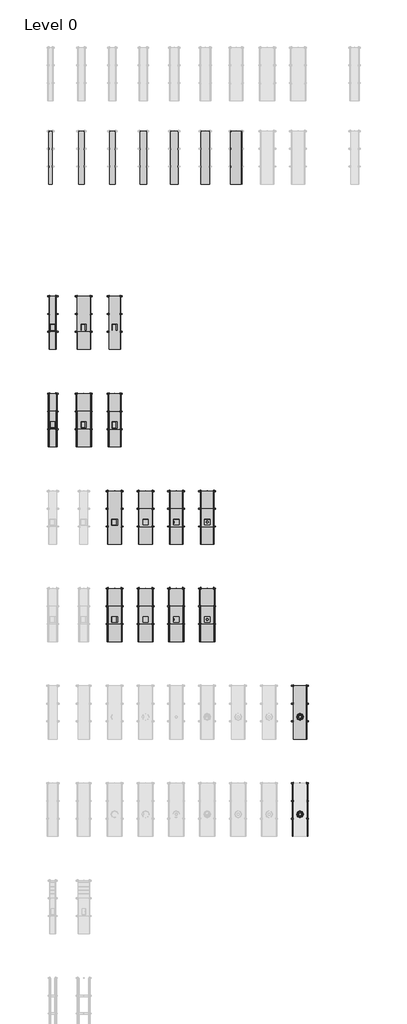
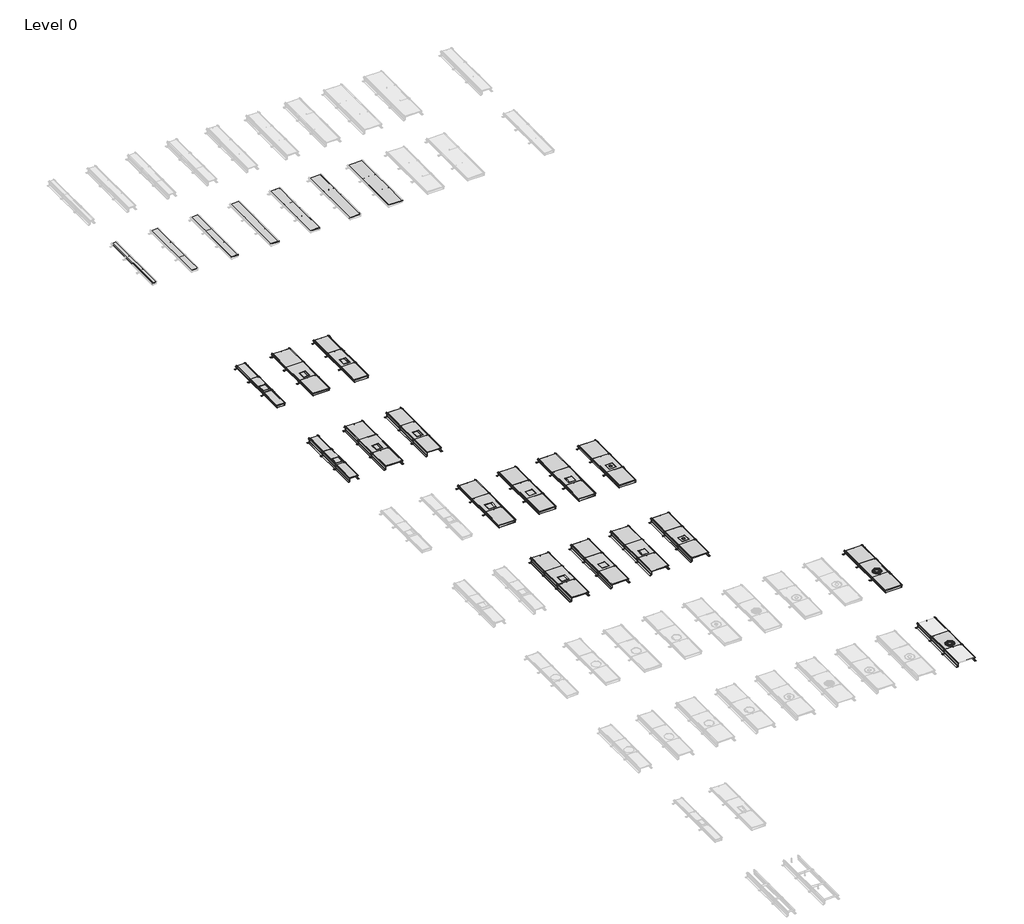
# One storey, part 3 of 4: 78 proxies, 22 cable carrier segments.
"""IFC4 building model written with IfcOpenShell, lengths in millimetres."""

from ifc_helpers import new_model, si_unit, frame, origin, place, context, project, spatial, polyline, outline, extrude, transform, mapped, element, save
from components import electrical_fixtures_5abaa08a, electrical_fixtures_b622e032, electrical_fixtures_3dcf8f7d, electrical_fixtures_91705b88, electrical_fixtures_5b61fe5b, electrical_fixtures_d483ce37, electrical_fixtures_b1f2edc7, electrical_fixtures_000b1942, electrical_fixtures_7e0d0abb, electrical_fixtures_cec88ef4, electrical_fixtures_47809ec4, electrical_fixtures_4e8a14d8, electrical_fixtures_4a2096c9, electrical_fixtures_b3832a11, electrical_fixtures_2455a1ed, electrical_fixtures_ce3c5b8d, electrical_fixtures_0b4ac500, electrical_fixtures_272c23cf, electrical_fixtures_acb858e2, electrical_fixtures_989a82f7, electrical_fixtures_84b00acf, electrical_fixtures_e54105be, electrical_fixtures_bc096a6a, electrical_fixtures_62458b07, electrical_fixtures_8427cab8, electrical_fixtures_a8bb30d2, color_iron_grey_872dce2f, color_iron_grey_09ea9520, stainless_steel_cassette_q12_bl_outer_height_28mm_38aa1d54, stainless_steel_cassette_q12_le_outer_height_28mm_4387def9, stainless_steel_cassette_q12_tm_outer_height_28mm_6e70061e

model = new_model("IFC4")

# Units and contexts
model_context = context("Model", 3, world=origin())
ifc_project = project(units=[si_unit("LENGTHUNIT", "METRE", prefix="MILLI")], contexts=[model_context])

# Site, building, storey
site = spatial("IfcSite", under=ifc_project)
building = spatial("IfcBuilding", under=site)
storey = spatial("IfcBuildingStorey", under=building, Name="Level 0", Elevation=0.0)

# Proxies
placement = place(None, origin())
electrical_fixtures_shape = electrical_fixtures_5abaa08a(model_context)
element("IfcBuildingElementProxy", 1, Name="Electrical_Installation_Hager_Cover-Q12-BKA : Electrical_Installation_Hager_Cover-Q12-BKA", ObjectType="Electrical_Installation_Hager_Cover-Q12-BKA : Electrical_Installation_Hager_Cover-Q12-BKA", at=placement, inside=storey, context=model_context, shape_type="MappedRepresentation", body=[
    mapped(electrical_fixtures_shape, transform((-15999.1749622, -1696.4762943, 0.0), x_axis=(0.0, 1.0000000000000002, 0.0), y_axis=(-1.0000000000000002, 0.0, 0.0), z_axis=(0.0, 0.0, 1.0))),
])
element("IfcBuildingElementProxy", 2, Name="Electrical_Installation_Hager_Cover-Q12-BKA : Electrical_Installation_Hager_Cover-Q12-BKA", ObjectType="Electrical_Installation_Hager_Cover-Q12-BKA : Electrical_Installation_Hager_Cover-Q12-BKA", at=placement, inside=storey, context=model_context, shape_type="MappedRepresentation", body=[
    mapped(electrical_fixtures_shape, transform((-14599.1749622, -1696.4762943, 0.0), x_axis=(0.0, 1.0000000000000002, 0.0), y_axis=(-1.0000000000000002, 0.0, 0.0), z_axis=(0.0, 0.0, 1.0))),
])
element("IfcBuildingElementProxy", 3, Name="Electrical_Installation_Hager_Cover-Q12-BKA : Electrical_Installation_Hager_Cover-Q12-BKA", ObjectType="Electrical_Installation_Hager_Cover-Q12-BKA : Electrical_Installation_Hager_Cover-Q12-BKA", at=placement, inside=storey, context=model_context, shape_type="MappedRepresentation", body=[
    mapped(electrical_fixtures_shape, transform((-13212.1749622, -1696.4762943, 0.0), x_axis=(0.0, 1.0000000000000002, 0.0), y_axis=(-1.0000000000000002, 0.0, 0.0), z_axis=(0.0, 0.0, 1.0))),
])
element("IfcBuildingElementProxy", 4, Name="Electrical_Installation_Hager_Cover-Q12-BKA : Electrical_Installation_Hager_Cover-Q12-BKA", ObjectType="Electrical_Installation_Hager_Cover-Q12-BKA : Electrical_Installation_Hager_Cover-Q12-BKA", at=placement, inside=storey, context=model_context, shape_type="MappedRepresentation", body=[
    mapped(electrical_fixtures_shape, transform((-11812.1749622, -1696.4762943, 0.0), x_axis=(0.0, 1.0000000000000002, 0.0), y_axis=(-1.0000000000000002, 0.0, 0.0), z_axis=(0.0, 0.0, 1.0))),
])
element("IfcBuildingElementProxy", 5, Name="Electrical_Installation_Hager_Cover-Q12-BKA : Electrical_Installation_Hager_Cover-Q12-BKA", ObjectType="Electrical_Installation_Hager_Cover-Q12-BKA : Electrical_Installation_Hager_Cover-Q12-BKA", at=placement, inside=storey, context=model_context, shape_type="MappedRepresentation", body=[
    mapped(electrical_fixtures_shape, transform((-15999.1749622, -6096.4169363, 0.0), x_axis=(0.0, 1.0, 0.0), y_axis=(-1.0, 0.0, 0.0), z_axis=(0.0, 0.0, 1.0))),
])
element("IfcBuildingElementProxy", 6, Name="Electrical_Installation_Hager_Cover-Q12-BKA : Electrical_Installation_Hager_Cover-Q12-BKA", ObjectType="Electrical_Installation_Hager_Cover-Q12-BKA : Electrical_Installation_Hager_Cover-Q12-BKA", at=placement, inside=storey, context=model_context, shape_type="MappedRepresentation", body=[
    mapped(electrical_fixtures_shape, transform((-14599.1749622, -6096.4169363, 0.0), x_axis=(0.0, 1.0, 0.0), y_axis=(-1.0, 0.0, 0.0), z_axis=(0.0, 0.0, 1.0))),
])
element("IfcBuildingElementProxy", 7, Name="Electrical_Installation_Hager_Cover-Q12-BKA : Electrical_Installation_Hager_Cover-Q12-BKA", ObjectType="Electrical_Installation_Hager_Cover-Q12-BKA : Electrical_Installation_Hager_Cover-Q12-BKA", at=placement, inside=storey, context=model_context, shape_type="MappedRepresentation", body=[
    mapped(electrical_fixtures_shape, transform((-13212.1749622, -6096.4169363, 0.0), x_axis=(0.0, 1.0, 0.0), y_axis=(-1.0, 0.0, 0.0), z_axis=(0.0, 0.0, 1.0))),
])
element("IfcBuildingElementProxy", 8, Name="Electrical_Installation_Hager_Cover-Q12-BKA : Electrical_Installation_Hager_Cover-Q12-BKA", ObjectType="Electrical_Installation_Hager_Cover-Q12-BKA : Electrical_Installation_Hager_Cover-Q12-BKA", at=placement, inside=storey, context=model_context, shape_type="MappedRepresentation", body=[
    mapped(electrical_fixtures_shape, transform((-11812.1749622, -6096.4169363, 0.0), x_axis=(0.0, 1.0, 0.0), y_axis=(-1.0, 0.0, 0.0), z_axis=(0.0, 0.0, 1.0))),
])
electrical_fixtures_2_shape = electrical_fixtures_b622e032(model_context)
element("IfcBuildingElementProxy", 9, Name="Electrical_Installation_Hager_Cover-R12-BKAD : Electrical_Installation_Hager_Cover-R12-BKAD", ObjectType="Electrical_Installation_Hager_Cover-R12-BKAD : Electrical_Installation_Hager_Cover-R12-BKAD", at=placement, inside=storey, context=model_context, shape_type="MappedRepresentation", body=[
    mapped(electrical_fixtures_2_shape, transform((-7612.1749622, -10496.4911142, 0.0), x_axis=(0.0, 1.0, 0.0), y_axis=(-1.0, 0.0, 0.0), z_axis=(0.0, 0.0, 1.0))),
])
element("IfcBuildingElementProxy", 10, Name="Electrical_Installation_Hager_Cover-R12-BKAD : Electrical_Installation_Hager_Cover-R12-BKAD", ObjectType="Electrical_Installation_Hager_Cover-R12-BKAD : Electrical_Installation_Hager_Cover-R12-BKAD", at=placement, inside=storey, context=model_context, shape_type="MappedRepresentation", body=[
    mapped(electrical_fixtures_2_shape, transform((-7612.1749622, -14896.5591011, 0.0), x_axis=(0.0, 1.0, 0.0), y_axis=(-1.0, 0.0, 0.0), z_axis=(0.0, 0.0, 1.0))),
])
electrical_fixtures_3_shape = electrical_fixtures_3dcf8f7d(model_context)
electrical_fixtures_4_shape = electrical_fixtures_91705b88(model_context)
element("IfcBuildingElementProxy", 11, Name="Electrical_Installation_Hager_BKFD-Trunking-System-With-Flexible-Screed-Casing-And-Sealing-Option : Nominal Size 600  Length 2.4 m", ObjectType="Electrical_Installation_Hager_BKFD-Trunking-System-With-Flexible-Screed-Casing-And-Sealing-Option : Nominal Size 600  Length 2.4 m", at=placement, inside=storey, context=model_context, shape_type="MappedRepresentation", body=[
    mapped(electrical_fixtures_3_shape, transform((-7612.1749622, -13296.5591011, 0.0), x_axis=(0.0, -1.0, 0.0), y_axis=(1.0, 0.0, 0.0), z_axis=(0.0, 0.0, 1.0))),
    mapped(electrical_fixtures_4_shape, transform((-7612.1749622, -13296.5591011, 0.0), x_axis=(0.0, -1.0, 0.0), y_axis=(1.0, 0.0, 0.0), z_axis=(0.0, 0.0, 1.0))),
])
electrical_fixtures_5_shape = electrical_fixtures_5b61fe5b(model_context)
element("IfcBuildingElementProxy", 12, Name="Electrical_Installation_Hager_Blank-Cover-BKA : Electrical_Installation_Hager_Blank-Cover-BKA", ObjectType="Electrical_Installation_Hager_Blank-Cover-BKA : Electrical_Installation_Hager_Blank-Cover-BKA", at=placement, inside=storey, context=model_context, shape_type="MappedRepresentation", body=[
    mapped(electrical_fixtures_5_shape, transform((-18799.1749622, 8703.2885117, 0.0), x_axis=(0.0, -1.0, 0.0), y_axis=(1.0, 0.0, 0.0), z_axis=(0.0, 0.0, 1.0))),
])
element("IfcBuildingElementProxy", 13, Name="Electrical_Installation_Hager_Blank-Cover-BKA : Electrical_Installation_Hager_Blank-Cover-BKA", ObjectType="Electrical_Installation_Hager_Blank-Cover-BKA : Electrical_Installation_Hager_Blank-Cover-BKA", at=placement, inside=storey, context=model_context, shape_type="MappedRepresentation", body=[
    mapped(electrical_fixtures_5_shape, transform((-18799.1749622, 6303.2885117, 0.0), x_axis=(0.0, 1.0, 0.0), y_axis=(-1.0, 0.0, 0.0), z_axis=(0.0, 0.0, 1.0))),
])
element("IfcBuildingElementProxy", 14, Name="Electrical_Installation_Hager_Blank-Cover-BKA : Electrical_Installation_Hager_Blank-Cover-BKA", ObjectType="Electrical_Installation_Hager_Blank-Cover-BKA : Electrical_Installation_Hager_Blank-Cover-BKA", at=placement, inside=storey, context=model_context, shape_type="MappedRepresentation", body=[
    mapped(electrical_fixtures_5_shape, transform((-18799.1749622, 4303.2885117, 0.0), x_axis=(0.0, -1.0, 0.0), y_axis=(1.0, 0.0, 0.0), z_axis=(0.0, 0.0, 1.0))),
])
element("IfcBuildingElementProxy", 15, Name="Electrical_Installation_Hager_Blank-Cover-BKA : Electrical_Installation_Hager_Blank-Cover-BKA", ObjectType="Electrical_Installation_Hager_Blank-Cover-BKA : Electrical_Installation_Hager_Blank-Cover-BKA", at=placement, inside=storey, context=model_context, shape_type="MappedRepresentation", body=[
    mapped(electrical_fixtures_5_shape, transform((-18799.1749622, 1903.2885117, 0.0), x_axis=(0.0, 1.0, 0.0), y_axis=(-1.0, 0.0, 0.0), z_axis=(0.0, 0.0, 1.0))),
])
electrical_fixtures_6_shape = electrical_fixtures_d483ce37(model_context)
element("IfcBuildingElementProxy", 16, Name="Electrical_Installation_Hager_Blank-Cover-BKA : Electrical_Installation_Hager_Blank-Cover-BKA", ObjectType="Electrical_Installation_Hager_Blank-Cover-BKA : Electrical_Installation_Hager_Blank-Cover-BKA", at=placement, inside=storey, context=model_context, shape_type="MappedRepresentation", body=[
    mapped(electrical_fixtures_6_shape, transform((-17399.1749622, 8703.2885117, 0.0), x_axis=(0.0, -1.0, 0.0), y_axis=(1.0, 0.0, 0.0), z_axis=(0.0, 0.0, 1.0))),
])
element("IfcBuildingElementProxy", 17, Name="Electrical_Installation_Hager_Blank-Cover-BKA : Electrical_Installation_Hager_Blank-Cover-BKA", ObjectType="Electrical_Installation_Hager_Blank-Cover-BKA : Electrical_Installation_Hager_Blank-Cover-BKA", at=placement, inside=storey, context=model_context, shape_type="MappedRepresentation", body=[
    mapped(electrical_fixtures_6_shape, transform((-17399.1749622, 6303.2885117, 0.0), x_axis=(0.0, 1.0, 0.0), y_axis=(-1.0, 0.0, 0.0), z_axis=(0.0, 0.0, 1.0))),
])
element("IfcBuildingElementProxy", 18, Name="Electrical_Installation_Hager_Blank-Cover-BKA : Electrical_Installation_Hager_Blank-Cover-BKA", ObjectType="Electrical_Installation_Hager_Blank-Cover-BKA : Electrical_Installation_Hager_Blank-Cover-BKA", at=placement, inside=storey, context=model_context, shape_type="MappedRepresentation", body=[
    mapped(electrical_fixtures_6_shape, transform((-17399.1749622, 4303.2885117, 0.0), x_axis=(0.0, -1.0, 0.0), y_axis=(1.0, 0.0, 0.0), z_axis=(0.0, 0.0, 1.0))),
])
element("IfcBuildingElementProxy", 19, Name="Electrical_Installation_Hager_Blank-Cover-BKA : Electrical_Installation_Hager_Blank-Cover-BKA", ObjectType="Electrical_Installation_Hager_Blank-Cover-BKA : Electrical_Installation_Hager_Blank-Cover-BKA", at=placement, inside=storey, context=model_context, shape_type="MappedRepresentation", body=[
    mapped(electrical_fixtures_6_shape, transform((-17399.1749622, 1903.2885117, 0.0), x_axis=(0.0, 1.0, 0.0), y_axis=(-1.0, 0.0, 0.0), z_axis=(0.0, 0.0, 1.0))),
])
element("IfcBuildingElementProxy", 20, Name="Electrical_Installation_Hager_Blank-Cover-BKA : Electrical_Installation_Hager_Blank-Cover-BKA", ObjectType="Electrical_Installation_Hager_Blank-Cover-BKA : Electrical_Installation_Hager_Blank-Cover-BKA", at=placement, inside=storey, context=model_context, shape_type="MappedRepresentation", body=[
    mapped(electrical_fixtures_6_shape, transform((-15999.1749622, -1696.4762943, 0.0), x_axis=(0.0, -1.0, 0.0), y_axis=(1.0, 0.0, 0.0), z_axis=(0.0, 0.0, 1.0))),
])
element("IfcBuildingElementProxy", 21, Name="Electrical_Installation_Hager_Blank-Cover-BKA : Electrical_Installation_Hager_Blank-Cover-BKA", ObjectType="Electrical_Installation_Hager_Blank-Cover-BKA : Electrical_Installation_Hager_Blank-Cover-BKA", at=placement, inside=storey, context=model_context, shape_type="MappedRepresentation", body=[
    mapped(electrical_fixtures_6_shape, transform((-15999.1749622, -896.4762943, 0.0), x_axis=(0.0, 1.0, 0.0), y_axis=(-1.0, 0.0, 0.0), z_axis=(0.0, 0.0, 1.0))),
])
element("IfcBuildingElementProxy", 22, Name="Electrical_Installation_Hager_Blank-Cover-BKA : Electrical_Installation_Hager_Blank-Cover-BKA", ObjectType="Electrical_Installation_Hager_Blank-Cover-BKA : Electrical_Installation_Hager_Blank-Cover-BKA", at=placement, inside=storey, context=model_context, shape_type="MappedRepresentation", body=[
    mapped(electrical_fixtures_6_shape, transform((-14599.1749622, -1696.4762943, 0.0), x_axis=(0.0, -1.0, 0.0), y_axis=(1.0, 0.0, 0.0), z_axis=(0.0, 0.0, 1.0))),
])
element("IfcBuildingElementProxy", 23, Name="Electrical_Installation_Hager_Blank-Cover-BKA : Electrical_Installation_Hager_Blank-Cover-BKA", ObjectType="Electrical_Installation_Hager_Blank-Cover-BKA : Electrical_Installation_Hager_Blank-Cover-BKA", at=placement, inside=storey, context=model_context, shape_type="MappedRepresentation", body=[
    mapped(electrical_fixtures_6_shape, transform((-14599.1749622, -896.4762943, 0.0), x_axis=(0.0, 1.0, 0.0), y_axis=(-1.0, 0.0, 0.0), z_axis=(0.0, 0.0, 1.0))),
])
element("IfcBuildingElementProxy", 24, Name="Electrical_Installation_Hager_Blank-Cover-BKA : Electrical_Installation_Hager_Blank-Cover-BKA", ObjectType="Electrical_Installation_Hager_Blank-Cover-BKA : Electrical_Installation_Hager_Blank-Cover-BKA", at=placement, inside=storey, context=model_context, shape_type="MappedRepresentation", body=[
    mapped(electrical_fixtures_6_shape, transform((-13212.1749622, -1696.4762943, 0.0), x_axis=(0.0, -1.0, 0.0), y_axis=(1.0, 0.0, 0.0), z_axis=(0.0, 0.0, 1.0))),
])
element("IfcBuildingElementProxy", 25, Name="Electrical_Installation_Hager_Blank-Cover-BKA : Electrical_Installation_Hager_Blank-Cover-BKA", ObjectType="Electrical_Installation_Hager_Blank-Cover-BKA : Electrical_Installation_Hager_Blank-Cover-BKA", at=placement, inside=storey, context=model_context, shape_type="MappedRepresentation", body=[
    mapped(electrical_fixtures_6_shape, transform((-13212.1749622, -896.4762943, 0.0), x_axis=(0.0, 1.0, 0.0), y_axis=(-1.0, 0.0, 0.0), z_axis=(0.0, 0.0, 1.0))),
])
element("IfcBuildingElementProxy", 26, Name="Electrical_Installation_Hager_Blank-Cover-BKA : Electrical_Installation_Hager_Blank-Cover-BKA", ObjectType="Electrical_Installation_Hager_Blank-Cover-BKA : Electrical_Installation_Hager_Blank-Cover-BKA", at=placement, inside=storey, context=model_context, shape_type="MappedRepresentation", body=[
    mapped(electrical_fixtures_6_shape, transform((-11812.1749622, -1696.4762943, 0.0), x_axis=(0.0, -1.0, 0.0), y_axis=(1.0, 0.0, 0.0), z_axis=(0.0, 0.0, 1.0))),
])
element("IfcBuildingElementProxy", 27, Name="Electrical_Installation_Hager_Blank-Cover-BKA : Electrical_Installation_Hager_Blank-Cover-BKA", ObjectType="Electrical_Installation_Hager_Blank-Cover-BKA : Electrical_Installation_Hager_Blank-Cover-BKA", at=placement, inside=storey, context=model_context, shape_type="MappedRepresentation", body=[
    mapped(electrical_fixtures_6_shape, transform((-11812.1749622, -896.4762943, 0.0), x_axis=(0.0, 1.0, 0.0), y_axis=(-1.0, 0.0, 0.0), z_axis=(0.0, 0.0, 1.0))),
])
element("IfcBuildingElementProxy", 28, Name="Electrical_Installation_Hager_Blank-Cover-BKA : Electrical_Installation_Hager_Blank-Cover-BKA", ObjectType="Electrical_Installation_Hager_Blank-Cover-BKA : Electrical_Installation_Hager_Blank-Cover-BKA", at=placement, inside=storey, context=model_context, shape_type="MappedRepresentation", body=[
    mapped(electrical_fixtures_6_shape, transform((-15999.1749622, -6096.4169363, 0.0), x_axis=(0.0, -1.0, 0.0), y_axis=(1.0, 0.0, 0.0), z_axis=(0.0, 0.0, 1.0))),
])
element("IfcBuildingElementProxy", 29, Name="Electrical_Installation_Hager_Blank-Cover-BKA : Electrical_Installation_Hager_Blank-Cover-BKA", ObjectType="Electrical_Installation_Hager_Blank-Cover-BKA : Electrical_Installation_Hager_Blank-Cover-BKA", at=placement, inside=storey, context=model_context, shape_type="MappedRepresentation", body=[
    mapped(electrical_fixtures_6_shape, transform((-15999.1749622, -5296.4169363, 0.0), x_axis=(0.0, 1.0, 0.0), y_axis=(-1.0, 0.0, 0.0), z_axis=(0.0, 0.0, 1.0))),
])
element("IfcBuildingElementProxy", 30, Name="Electrical_Installation_Hager_Blank-Cover-BKA : Electrical_Installation_Hager_Blank-Cover-BKA", ObjectType="Electrical_Installation_Hager_Blank-Cover-BKA : Electrical_Installation_Hager_Blank-Cover-BKA", at=placement, inside=storey, context=model_context, shape_type="MappedRepresentation", body=[
    mapped(electrical_fixtures_6_shape, transform((-14599.1749622, -6096.4169363, 0.0), x_axis=(0.0, -1.0, 0.0), y_axis=(1.0, 0.0, 0.0), z_axis=(0.0, 0.0, 1.0))),
])
element("IfcBuildingElementProxy", 31, Name="Electrical_Installation_Hager_Blank-Cover-BKA : Electrical_Installation_Hager_Blank-Cover-BKA", ObjectType="Electrical_Installation_Hager_Blank-Cover-BKA : Electrical_Installation_Hager_Blank-Cover-BKA", at=placement, inside=storey, context=model_context, shape_type="MappedRepresentation", body=[
    mapped(electrical_fixtures_6_shape, transform((-14599.1749622, -5296.4169363, 0.0), x_axis=(0.0, 1.0, 0.0), y_axis=(-1.0, 0.0, 0.0), z_axis=(0.0, 0.0, 1.0))),
])
element("IfcBuildingElementProxy", 32, Name="Electrical_Installation_Hager_Blank-Cover-BKA : Electrical_Installation_Hager_Blank-Cover-BKA", ObjectType="Electrical_Installation_Hager_Blank-Cover-BKA : Electrical_Installation_Hager_Blank-Cover-BKA", at=placement, inside=storey, context=model_context, shape_type="MappedRepresentation", body=[
    mapped(electrical_fixtures_6_shape, transform((-13212.1749622, -6096.4169363, 0.0), x_axis=(0.0, -1.0, 0.0), y_axis=(1.0, 0.0, 0.0), z_axis=(0.0, 0.0, 1.0))),
])
element("IfcBuildingElementProxy", 33, Name="Electrical_Installation_Hager_Blank-Cover-BKA : Electrical_Installation_Hager_Blank-Cover-BKA", ObjectType="Electrical_Installation_Hager_Blank-Cover-BKA : Electrical_Installation_Hager_Blank-Cover-BKA", at=placement, inside=storey, context=model_context, shape_type="MappedRepresentation", body=[
    mapped(electrical_fixtures_6_shape, transform((-13212.1749622, -5296.4169363, 0.0), x_axis=(0.0, 1.0, 0.0), y_axis=(-1.0, 0.0, 0.0), z_axis=(0.0, 0.0, 1.0))),
])
element("IfcBuildingElementProxy", 34, Name="Electrical_Installation_Hager_Blank-Cover-BKA : Electrical_Installation_Hager_Blank-Cover-BKA", ObjectType="Electrical_Installation_Hager_Blank-Cover-BKA : Electrical_Installation_Hager_Blank-Cover-BKA", at=placement, inside=storey, context=model_context, shape_type="MappedRepresentation", body=[
    mapped(electrical_fixtures_6_shape, transform((-11812.1749622, -6096.4169363, 0.0), x_axis=(0.0, -1.0, 0.0), y_axis=(1.0, 0.0, 0.0), z_axis=(0.0, 0.0, 1.0))),
])
element("IfcBuildingElementProxy", 35, Name="Electrical_Installation_Hager_Blank-Cover-BKA : Electrical_Installation_Hager_Blank-Cover-BKA", ObjectType="Electrical_Installation_Hager_Blank-Cover-BKA : Electrical_Installation_Hager_Blank-Cover-BKA", at=placement, inside=storey, context=model_context, shape_type="MappedRepresentation", body=[
    mapped(electrical_fixtures_6_shape, transform((-11812.1749622, -5296.4169363, 0.0), x_axis=(0.0, 1.0, 0.0), y_axis=(-1.0, 0.0, 0.0), z_axis=(0.0, 0.0, 1.0))),
])
electrical_fixtures_7_shape = electrical_fixtures_b1f2edc7(model_context)
element("IfcBuildingElementProxy", 36, Name="Electrical_Installation_Hager_Blank-Cover-BKA : Electrical_Installation_Hager_Blank-Cover-BKA", ObjectType="Electrical_Installation_Hager_Blank-Cover-BKA : Electrical_Installation_Hager_Blank-Cover-BKA", at=placement, inside=storey, context=model_context, shape_type="MappedRepresentation", body=[
    mapped(electrical_fixtures_7_shape, transform((-15999.1749622, 2699.3337677, 0.0), x_axis=(0.0, -1.0, 0.0), y_axis=(1.0, 0.0, 0.0), z_axis=(0.0, 0.0, 1.0))),
])
electrical_fixtures_8_shape = electrical_fixtures_000b1942(model_context)
element("IfcBuildingElementProxy", 37, Name="Electrical_Installation_Hager_Blank-Cover-BKA : Electrical_Installation_Hager_Blank-Cover-BKA", ObjectType="Electrical_Installation_Hager_Blank-Cover-BKA : Electrical_Installation_Hager_Blank-Cover-BKA", at=placement, inside=storey, context=model_context, shape_type="MappedRepresentation", body=[
    mapped(electrical_fixtures_8_shape, transform((-15999.1749622, 3490.2885117, 0.0), x_axis=(0.0, 1.0, 0.0), y_axis=(-1.0, 0.0, 0.0), z_axis=(0.0, 0.0, 1.0))),
])
electrical_fixtures_9_shape = electrical_fixtures_7e0d0abb(model_context)
element("IfcBuildingElementProxy", 38, Name="Electrical_Installation_Hager_Blank-Cover-BKA : Electrical_Installation_Hager_Blank-Cover-BKA", ObjectType="Electrical_Installation_Hager_Blank-Cover-BKA : Electrical_Installation_Hager_Blank-Cover-BKA", at=placement, inside=storey, context=model_context, shape_type="MappedRepresentation", body=[
    mapped(electrical_fixtures_9_shape, transform((-15999.1749622, 7903.2885117, 0.0), x_axis=(0.0, 1.0, 0.0), y_axis=(-1.0, 0.0, 0.0), z_axis=(0.0, 0.0, 1.0))),
])
element("IfcBuildingElementProxy", 39, Name="Electrical_Installation_Hager_Blank-Cover-BKA : Electrical_Installation_Hager_Blank-Cover-BKA", ObjectType="Electrical_Installation_Hager_Blank-Cover-BKA : Electrical_Installation_Hager_Blank-Cover-BKA", at=placement, inside=storey, context=model_context, shape_type="MappedRepresentation", body=[
    mapped(electrical_fixtures_9_shape, transform((-15999.1749622, 7103.2885117, 0.0), x_axis=(0.0, -1.0, 0.0), y_axis=(1.0, 0.0, 0.0), z_axis=(0.0, 0.0, 1.0))),
])
electrical_fixtures_10_shape = electrical_fixtures_cec88ef4(model_context)
element("IfcBuildingElementProxy", 40, Name="Electrical_Installation_Hager_Blank-Cover-BKAD : Electrical_Installation_Hager_Blank-Cover-BKAD", ObjectType="Electrical_Installation_Hager_Blank-Cover-BKAD : Electrical_Installation_Hager_Blank-Cover-BKAD", at=placement, inside=storey, context=model_context, shape_type="MappedRepresentation", body=[
    mapped(electrical_fixtures_10_shape, transform((-7612.1749622, -10496.4911142, 0.0), x_axis=(0.0, -1.0, 0.0), y_axis=(1.0, 0.0, 0.0), z_axis=(0.0, 0.0, 1.0))),
])
element("IfcBuildingElementProxy", 41, Name="Electrical_Installation_Hager_Blank-Cover-BKAD : Electrical_Installation_Hager_Blank-Cover-BKAD", ObjectType="Electrical_Installation_Hager_Blank-Cover-BKAD : Electrical_Installation_Hager_Blank-Cover-BKAD", at=placement, inside=storey, context=model_context, shape_type="MappedRepresentation", body=[
    mapped(electrical_fixtures_10_shape, transform((-7612.1749622, -9696.4911142, 0.0), x_axis=(0.0, 1.0, 0.0), y_axis=(-1.0, 0.0, 0.0), z_axis=(0.0, 0.0, 1.0))),
])
electrical_fixtures_11_shape = electrical_fixtures_47809ec4(model_context)
element("IfcBuildingElementProxy", 42, Name="Electrical_Installation_Hager_Cover-E09-BKA : Electrical_Installation_Hager_Cover-E09-BKA", ObjectType="Electrical_Installation_Hager_Cover-E09-BKA : Electrical_Installation_Hager_Cover-E09-BKA", at=placement, inside=storey, context=model_context, shape_type="MappedRepresentation", body=[
    mapped(electrical_fixtures_11_shape, transform((-17399.1749622, 7103.2885117, 0.0), x_axis=(0.0, 1.0, 0.0), y_axis=(-1.0, 0.0, 0.0), z_axis=(0.0, 0.0, 1.0))),
])
element("IfcBuildingElementProxy", 43, Name="Electrical_Installation_Hager_Cover-E09-BKA : Electrical_Installation_Hager_Cover-E09-BKA", ObjectType="Electrical_Installation_Hager_Cover-E09-BKA : Electrical_Installation_Hager_Cover-E09-BKA", at=placement, inside=storey, context=model_context, shape_type="MappedRepresentation", body=[
    mapped(electrical_fixtures_11_shape, transform((-17399.1749622, 2703.2885117, 0.0), x_axis=(0.0, 1.0, 0.0), y_axis=(-1.0, 0.0, 0.0), z_axis=(0.0, 0.0, 1.0))),
])
electrical_fixtures_12_shape = electrical_fixtures_4e8a14d8(model_context)
element("IfcBuildingElementProxy", 44, Name="Electrical_Installation_Hager_Cover-E09-BKA : Electrical_Installation_Hager_Cover-E09-BKA", ObjectType="Electrical_Installation_Hager_Cover-E09-BKA : Electrical_Installation_Hager_Cover-E09-BKA", at=placement, inside=storey, context=model_context, shape_type="MappedRepresentation", body=[
    mapped(electrical_fixtures_12_shape, transform((-15999.1749622, 7103.2885117, 0.0), x_axis=(0.0, 1.0000000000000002, 0.0), y_axis=(-1.0000000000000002, 0.0, 0.0), z_axis=(0.0, 0.0, 1.0))),
])
element("IfcBuildingElementProxy", 45, Name="Electrical_Installation_Hager_Cover-E09-BKA : Electrical_Installation_Hager_Cover-E09-BKA", ObjectType="Electrical_Installation_Hager_Cover-E09-BKA : Electrical_Installation_Hager_Cover-E09-BKA", at=placement, inside=storey, context=model_context, shape_type="MappedRepresentation", body=[
    mapped(electrical_fixtures_12_shape, transform((-15999.1749622, 2699.3337677, 0.0), x_axis=(0.0, 1.0000000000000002, 0.0), y_axis=(-1.0000000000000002, 0.0, 0.0), z_axis=(0.0, 0.0, 1.0))),
])
electrical_fixtures_13_shape = electrical_fixtures_4a2096c9(model_context)
electrical_fixtures_14_shape = electrical_fixtures_b3832a11(model_context)
element("IfcBuildingElementProxy", 46, Name="Electrical_Installation_Hager_BKWD-Trunking-System-With-Trunking-Bottom-And-Sealing-Option : Nominal Size 600  Length 2.4 m", ObjectType="Electrical_Installation_Hager_BKWD-Trunking-System-With-Trunking-Bottom-And-Sealing-Option : Nominal Size 600  Length 2.4 m", at=placement, inside=storey, context=model_context, shape_type="MappedRepresentation", body=[
    mapped(electrical_fixtures_13_shape, transform((-7612.1749622, -8896.4911142, 0.0), x_axis=(0.0, -1.0, 0.0), y_axis=(1.0, 0.0, 0.0), z_axis=(0.0, 0.0, 1.0))),
    mapped(electrical_fixtures_14_shape, transform((-7612.1749622, -8896.4911142, 0.0), x_axis=(0.0, -1.0, 0.0), y_axis=(1.0, 0.0, 0.0), z_axis=(0.0, 0.0, 1.0))),
])
electrical_fixtures_15_shape = electrical_fixtures_2455a1ed(model_context)
electrical_fixtures_16_shape = electrical_fixtures_ce3c5b8d(model_context)
element("IfcBuildingElementProxy", 47, Name="Electrical_Installation_Hager_BKW-Trunking-System-With-Trunking-Bottom-For-Dry-Cleaned-Floors : Nominal Size 500  Length 2.4 m", ObjectType="Electrical_Installation_Hager_BKW-Trunking-System-With-Trunking-Bottom-For-Dry-Cleaned-Floors : Nominal Size 500  Length 2.4 m", at=placement, inside=storey, context=model_context, shape_type="MappedRepresentation", body=[
    mapped(electrical_fixtures_15_shape, transform((-15999.1749622, 8703.2885117, 0.0), x_axis=(0.0, -1.0, 0.0), y_axis=(1.0, 0.0, 0.0), z_axis=(0.0, 0.0, 1.0))),
    mapped(electrical_fixtures_16_shape, transform((-15999.1749622, 8703.2885117, 0.0), x_axis=(0.0, -1.0, 0.0), y_axis=(1.0, 0.0, 0.0), z_axis=(0.0, 0.0, 1.0))),
])
element("IfcBuildingElementProxy", 48, Name="Electrical_Installation_Hager_BKW-Trunking-System-With-Trunking-Bottom-For-Dry-Cleaned-Floors : Nominal Size 600  Length 2.4 m", ObjectType="Electrical_Installation_Hager_BKW-Trunking-System-With-Trunking-Bottom-For-Dry-Cleaned-Floors : Nominal Size 600  Length 2.4 m", at=placement, inside=storey, context=model_context, shape_type="MappedRepresentation", body=[
    mapped(electrical_fixtures_13_shape, transform((-17399.1749622, 8703.2885117, 0.0), x_axis=(0.0, -1.0, 0.0), y_axis=(1.0, 0.0, 0.0), z_axis=(0.0, 0.0, 1.0))),
    mapped(electrical_fixtures_14_shape, transform((-17399.1749622, 8703.2885117, 0.0), x_axis=(0.0, -1.0, 0.0), y_axis=(1.0, 0.0, 0.0), z_axis=(0.0, 0.0, 1.0))),
])
element("IfcBuildingElementProxy", 49, Name="Electrical_Installation_Hager_BKW-Trunking-System-With-Trunking-Bottom-For-Dry-Cleaned-Floors : Nominal Size 600  Length 2.4 m", ObjectType="Electrical_Installation_Hager_BKW-Trunking-System-With-Trunking-Bottom-For-Dry-Cleaned-Floors : Nominal Size 600  Length 2.4 m", at=placement, inside=storey, context=model_context, shape_type="MappedRepresentation", body=[
    mapped(electrical_fixtures_13_shape, transform((-15999.1749622, -96.4762943, 0.0), x_axis=(0.0, -1.0, 0.0), y_axis=(1.0, 0.0, 0.0), z_axis=(0.0, 0.0, 1.0))),
    mapped(electrical_fixtures_14_shape, transform((-15999.1749622, -96.4762943, 0.0), x_axis=(0.0, -1.0, 0.0), y_axis=(1.0, 0.0, 0.0), z_axis=(0.0, 0.0, 1.0))),
])
element("IfcBuildingElementProxy", 50, Name="Electrical_Installation_Hager_BKW-Trunking-System-With-Trunking-Bottom-For-Dry-Cleaned-Floors : Nominal Size 600  Length 2.4 m", ObjectType="Electrical_Installation_Hager_BKW-Trunking-System-With-Trunking-Bottom-For-Dry-Cleaned-Floors : Nominal Size 600  Length 2.4 m", at=placement, inside=storey, context=model_context, shape_type="MappedRepresentation", body=[
    mapped(electrical_fixtures_13_shape, transform((-14599.1749622, -96.4762943, 0.0), x_axis=(0.0, -1.0, 0.0), y_axis=(1.0, 0.0, 0.0), z_axis=(0.0, 0.0, 1.0))),
    mapped(electrical_fixtures_14_shape, transform((-14599.1749622, -96.4762943, 0.0), x_axis=(0.0, -1.0, 0.0), y_axis=(1.0, 0.0, 0.0), z_axis=(0.0, 0.0, 1.0))),
])
element("IfcBuildingElementProxy", 51, Name="Electrical_Installation_Hager_BKW-Trunking-System-With-Trunking-Bottom-For-Dry-Cleaned-Floors : Nominal Size 600  Length 2.4 m", ObjectType="Electrical_Installation_Hager_BKW-Trunking-System-With-Trunking-Bottom-For-Dry-Cleaned-Floors : Nominal Size 600  Length 2.4 m", at=placement, inside=storey, context=model_context, shape_type="MappedRepresentation", body=[
    mapped(electrical_fixtures_13_shape, transform((-13212.1749622, -96.4762943, 0.0), x_axis=(0.0, -1.0, 0.0), y_axis=(1.0, 0.0, 0.0), z_axis=(0.0, 0.0, 1.0))),
    mapped(electrical_fixtures_14_shape, transform((-13212.1749622, -96.4762943, 0.0), x_axis=(0.0, -1.0, 0.0), y_axis=(1.0, 0.0, 0.0), z_axis=(0.0, 0.0, 1.0))),
])
element("IfcBuildingElementProxy", 52, Name="Electrical_Installation_Hager_BKW-Trunking-System-With-Trunking-Bottom-For-Dry-Cleaned-Floors : Nominal Size 600  Length 2.4 m", ObjectType="Electrical_Installation_Hager_BKW-Trunking-System-With-Trunking-Bottom-For-Dry-Cleaned-Floors : Nominal Size 600  Length 2.4 m", at=placement, inside=storey, context=model_context, shape_type="MappedRepresentation", body=[
    mapped(electrical_fixtures_13_shape, transform((-11812.1749622, -96.4762943, 0.0), x_axis=(0.0, -1.0, 0.0), y_axis=(1.0, 0.0, 0.0), z_axis=(0.0, 0.0, 1.0))),
    mapped(electrical_fixtures_14_shape, transform((-11812.1749622, -96.4762943, 0.0), x_axis=(0.0, -1.0, 0.0), y_axis=(1.0, 0.0, 0.0), z_axis=(0.0, 0.0, 1.0))),
])
electrical_fixtures_17_shape = electrical_fixtures_0b4ac500(model_context)
electrical_fixtures_18_shape = electrical_fixtures_272c23cf(model_context)
element("IfcBuildingElementProxy", 53, Name="Electrical_Installation_Hager_BKW-Trunking-System-With-Trunking-Bottom-For-Dry-Cleaned-Floors : Nominal Size 300  Length 2.4 m", ObjectType="Electrical_Installation_Hager_BKW-Trunking-System-With-Trunking-Bottom-For-Dry-Cleaned-Floors : Nominal Size 300  Length 2.4 m", at=placement, inside=storey, context=model_context, shape_type="MappedRepresentation", body=[
    mapped(electrical_fixtures_17_shape, transform((-18799.1749622, 8703.2885117, 0.0), x_axis=(0.0, -1.0, 0.0), y_axis=(1.0, 0.0, 0.0), z_axis=(0.0, 0.0, 1.0))),
    mapped(electrical_fixtures_18_shape, transform((-18799.1749622, 8703.2885117, 0.0), x_axis=(0.0, -1.0, 0.0), y_axis=(1.0, 0.0, 0.0), z_axis=(0.0, 0.0, 1.0))),
])
electrical_fixtures_19_shape = electrical_fixtures_acb858e2(model_context)
electrical_fixtures_20_shape = electrical_fixtures_989a82f7(model_context)
element("IfcBuildingElementProxy", 54, Name="Electrical_Installation_Hager_BKF-Trunking-System-With-Flexible-Screed-Casing-For-Dry-Cleaned-Floors : Nominal Size 300  Length 2.4 m", ObjectType="Electrical_Installation_Hager_BKF-Trunking-System-With-Flexible-Screed-Casing-For-Dry-Cleaned-Floors : Nominal Size 300  Length 2.4 m", at=placement, inside=storey, context=model_context, shape_type="MappedRepresentation", body=[
    mapped(electrical_fixtures_19_shape, transform((-18799.1749622, 4303.2885117, 0.0), x_axis=(0.0, -1.0, 0.0), y_axis=(1.0, 0.0, 0.0), z_axis=(0.0, 0.0, 1.0))),
    mapped(electrical_fixtures_20_shape, transform((-18799.1749622, 4303.2885117, 0.0), x_axis=(0.0, -1.0, 0.0), y_axis=(1.0, 0.0, 0.0), z_axis=(0.0, 0.0, 1.0))),
])
element("IfcBuildingElementProxy", 55, Name="Electrical_Installation_Hager_BKF-Trunking-System-With-Flexible-Screed-Casing-For-Dry-Cleaned-Floors : Nominal Size 600  Length 2.4 m", ObjectType="Electrical_Installation_Hager_BKF-Trunking-System-With-Flexible-Screed-Casing-For-Dry-Cleaned-Floors : Nominal Size 600  Length 2.4 m", at=placement, inside=storey, context=model_context, shape_type="MappedRepresentation", body=[
    mapped(electrical_fixtures_3_shape, transform((-17399.1749622, 4303.2885117, 0.0), x_axis=(0.0, -1.0, 0.0), y_axis=(1.0, 0.0, 0.0), z_axis=(0.0, 0.0, 1.0))),
    mapped(electrical_fixtures_4_shape, transform((-17399.1749622, 4303.2885117, 0.0), x_axis=(0.0, -1.0, 0.0), y_axis=(1.0, 0.0, 0.0), z_axis=(0.0, 0.0, 1.0))),
])
element("IfcBuildingElementProxy", 56, Name="Electrical_Installation_Hager_BKF-Trunking-System-With-Flexible-Screed-Casing-For-Dry-Cleaned-Floors : Nominal Size 600  Length 2.4 m", ObjectType="Electrical_Installation_Hager_BKF-Trunking-System-With-Flexible-Screed-Casing-For-Dry-Cleaned-Floors : Nominal Size 600  Length 2.4 m", at=placement, inside=storey, context=model_context, shape_type="MappedRepresentation", body=[
    mapped(electrical_fixtures_3_shape, transform((-15999.1749622, -4496.4169363, 0.0), x_axis=(0.0, -1.0, 0.0), y_axis=(1.0, 0.0, 0.0), z_axis=(0.0, 0.0, 1.0))),
    mapped(electrical_fixtures_4_shape, transform((-15999.1749622, -4496.4169363, 0.0), x_axis=(0.0, -1.0, 0.0), y_axis=(1.0, 0.0, 0.0), z_axis=(0.0, 0.0, 1.0))),
])
element("IfcBuildingElementProxy", 57, Name="Electrical_Installation_Hager_BKF-Trunking-System-With-Flexible-Screed-Casing-For-Dry-Cleaned-Floors : Nominal Size 600  Length 2.4 m", ObjectType="Electrical_Installation_Hager_BKF-Trunking-System-With-Flexible-Screed-Casing-For-Dry-Cleaned-Floors : Nominal Size 600  Length 2.4 m", at=placement, inside=storey, context=model_context, shape_type="MappedRepresentation", body=[
    mapped(electrical_fixtures_3_shape, transform((-14599.1749622, -4496.4169363, 0.0), x_axis=(0.0, -1.0, 0.0), y_axis=(1.0, 0.0, 0.0), z_axis=(0.0, 0.0, 1.0))),
    mapped(electrical_fixtures_4_shape, transform((-14599.1749622, -4496.4169363, 0.0), x_axis=(0.0, -1.0, 0.0), y_axis=(1.0, 0.0, 0.0), z_axis=(0.0, 0.0, 1.0))),
])
element("IfcBuildingElementProxy", 58, Name="Electrical_Installation_Hager_BKF-Trunking-System-With-Flexible-Screed-Casing-For-Dry-Cleaned-Floors : Nominal Size 600  Length 2.4 m", ObjectType="Electrical_Installation_Hager_BKF-Trunking-System-With-Flexible-Screed-Casing-For-Dry-Cleaned-Floors : Nominal Size 600  Length 2.4 m", at=placement, inside=storey, context=model_context, shape_type="MappedRepresentation", body=[
    mapped(electrical_fixtures_3_shape, transform((-13212.1749622, -4496.4169363, 0.0), x_axis=(0.0, -1.0, 0.0), y_axis=(1.0, 0.0, 0.0), z_axis=(0.0, 0.0, 1.0))),
    mapped(electrical_fixtures_4_shape, transform((-13212.1749622, -4496.4169363, 0.0), x_axis=(0.0, -1.0, 0.0), y_axis=(1.0, 0.0, 0.0), z_axis=(0.0, 0.0, 1.0))),
])
element("IfcBuildingElementProxy", 59, Name="Electrical_Installation_Hager_BKF-Trunking-System-With-Flexible-Screed-Casing-For-Dry-Cleaned-Floors : Nominal Size 600  Length 2.4 m", ObjectType="Electrical_Installation_Hager_BKF-Trunking-System-With-Flexible-Screed-Casing-For-Dry-Cleaned-Floors : Nominal Size 600  Length 2.4 m", at=placement, inside=storey, context=model_context, shape_type="MappedRepresentation", body=[
    mapped(electrical_fixtures_3_shape, transform((-11812.1749622, -4496.4169363, 0.0), x_axis=(0.0, -1.0, 0.0), y_axis=(1.0, 0.0, 0.0), z_axis=(0.0, 0.0, 1.0))),
    mapped(electrical_fixtures_4_shape, transform((-11812.1749622, -4496.4169363, 0.0), x_axis=(0.0, -1.0, 0.0), y_axis=(1.0, 0.0, 0.0), z_axis=(0.0, 0.0, 1.0))),
])
electrical_fixtures_21_shape = electrical_fixtures_84b00acf(model_context)
electrical_fixtures_22_shape = electrical_fixtures_e54105be(model_context)
element("IfcBuildingElementProxy", 60, Name="Electrical_Installation_Hager_BKF-Trunking-System-With-Flexible-Screed-Casing-For-Dry-Cleaned-Floors : Nominal Size 500  Length 2.4 m", ObjectType="Electrical_Installation_Hager_BKF-Trunking-System-With-Flexible-Screed-Casing-For-Dry-Cleaned-Floors : Nominal Size 500  Length 2.4 m", at=placement, inside=storey, context=model_context, shape_type="MappedRepresentation", body=[
    mapped(electrical_fixtures_21_shape, transform((-15999.1749622, 4303.2885117, 0.0), x_axis=(0.0, -1.0, 0.0), y_axis=(1.0, 0.0, 0.0), z_axis=(0.0, 0.0, 1.0))),
    mapped(electrical_fixtures_22_shape, transform((-15999.1749622, 4303.2885117, 0.0), x_axis=(0.0, -1.0, 0.0), y_axis=(1.0, 0.0, 0.0), z_axis=(0.0, 0.0, 1.0))),
])
electrical_fixtures_23_shape = electrical_fixtures_bc096a6a(model_context)
element("IfcBuildingElementProxy", 61, Name="Electrical_Installation_Hager_VE-EE_VANR-Service-unit-for-wet-cleaned-floors-with-tube-cable-outlete-made-of-polyamide : Service unit R12 w set HB wet PA-Tub Al R", ObjectType="Electrical_Installation_Hager_VE-EE_VANR-Service-unit-for-wet-cleaned-floors-with-tube-cable-outlete-made-of-polyamide : Service unit R12 w set HB wet PA-Tub Al R", at=placement, inside=storey, context=model_context, shape_type="MappedRepresentation", body=[
    mapped(electrical_fixtures_23_shape, transform((-7612.1749622, -14696.5591011, 13.0), x_axis=(0.0, -1.0, 0.0), y_axis=(1.0, 0.0, 0.0), z_axis=(0.0, 0.0, 1.0))),
])
element("IfcBuildingElementProxy", 62, Name="Electrical_Installation_Hager_VE-EE_VANR-Service-unit-for-wet-cleaned-floors-with-tube-cable-outlete-made-of-polyamide : Service unit R12 w set HB wet PA-Tub Al R", ObjectType="Electrical_Installation_Hager_VE-EE_VANR-Service-unit-for-wet-cleaned-floors-with-tube-cable-outlete-made-of-polyamide : Service unit R12 w set HB wet PA-Tub Al R", at=placement, inside=storey, context=model_context, shape_type="MappedRepresentation", body=[
    mapped(electrical_fixtures_23_shape, transform((-7612.1749622, -10296.4911142, 13.0), x_axis=(0.0, -1.0, 0.0), y_axis=(1.0, 0.0, 0.0), z_axis=(0.0, 0.0, 1.0))),
])
electrical_fixtures_24_shape = electrical_fixtures_62458b07(model_context)
element("IfcBuildingElementProxy", 63, Name="Electrical_Installation_Hager_VE-EE_Service-unit-VE09-made-of-stainless-steel : Electrical_Installation_Hager_VE-EE_Service-unit-VE09-made-of-stainless-steel", ObjectType="Electrical_Installation_Hager_VE-EE_Service-unit-VE09-made-of-stainless-steel : Electrical_Installation_Hager_VE-EE_Service-unit-VE09-made-of-stainless-steel", at=placement, inside=storey, context=model_context, shape_type="MappedRepresentation", body=[
    mapped(electrical_fixtures_24_shape, transform((-15999.1749622, 7303.2885117, 13.0), x_axis=(0.0, 1.0, 0.0), y_axis=(-1.0, 0.0, 0.0), z_axis=(0.0, 0.0, 1.0))),
])
element("IfcBuildingElementProxy", 64, Name="Electrical_Installation_Hager_VE-EE_Service-unit-VE09-made-of-stainless-steel : Electrical_Installation_Hager_VE-EE_Service-unit-VE09-made-of-stainless-steel", ObjectType="Electrical_Installation_Hager_VE-EE_Service-unit-VE09-made-of-stainless-steel : Electrical_Installation_Hager_VE-EE_Service-unit-VE09-made-of-stainless-steel", at=placement, inside=storey, context=model_context, shape_type="MappedRepresentation", body=[
    mapped(electrical_fixtures_24_shape, transform((-15999.1749622, 2890.2885117, 13.0), x_axis=(0.0, 1.0, 0.0), y_axis=(-1.0, 0.0, 0.0), z_axis=(0.0, 0.0, 1.0))),
])
electrical_fixtures_25_shape = electrical_fixtures_8427cab8(model_context)
element("IfcBuildingElementProxy", 65, Name="Electrical_Installation_Hager_VE-EE_Service-unit-VQ12-made-of-stainless-steel : Electrical_Installation_Hager_VE-EE_Service-unit-VQ12-made-of-stainless-steel", ObjectType="Electrical_Installation_Hager_VE-EE_Service-unit-VQ12-made-of-stainless-steel : Electrical_Installation_Hager_VE-EE_Service-unit-VQ12-made-of-stainless-steel", at=placement, inside=storey, context=model_context, shape_type="MappedRepresentation", body=[
    mapped(electrical_fixtures_25_shape, transform((-15999.1749622, -1496.4762943, 13.0), x_axis=(0.0, 1.0, 0.0), y_axis=(-1.0, 0.0, 0.0), z_axis=(0.0, 0.0, 1.0))),
])
element("IfcBuildingElementProxy", 66, Name="Electrical_Installation_Hager_VE-EE_Service-unit-VQ12-made-of-stainless-steel : Electrical_Installation_Hager_VE-EE_Service-unit-VQ12-made-of-stainless-steel", ObjectType="Electrical_Installation_Hager_VE-EE_Service-unit-VQ12-made-of-stainless-steel : Electrical_Installation_Hager_VE-EE_Service-unit-VQ12-made-of-stainless-steel", at=placement, inside=storey, context=model_context, shape_type="MappedRepresentation", body=[
    mapped(electrical_fixtures_25_shape, transform((-15999.1749622, -5896.4169363, 13.0), x_axis=(0.0, 1.0, 0.0), y_axis=(-1.0, 0.0, 0.0), z_axis=(0.0, 0.0, 1.0))),
])
electrical_fixtures_26_shape = electrical_fixtures_a8bb30d2(model_context)
element("IfcBuildingElementProxy", 67, Name="Electrical_Installation_Hager_Cover-E09-BKA : Electrical_Installation_Hager_Cover-E09-BKA", ObjectType="Electrical_Installation_Hager_Cover-E09-BKA : Electrical_Installation_Hager_Cover-E09-BKA", at=placement, inside=storey, context=model_context, shape_type="MappedRepresentation", body=[
    mapped(electrical_fixtures_26_shape, transform((-18799.1749622, 7103.2885117, 0.0), x_axis=(0.0, 1.0, 0.0), y_axis=(-1.0, 0.0, 0.0), z_axis=(0.0, 0.0, 1.0))),
])
element("IfcBuildingElementProxy", 68, Name="Electrical_Installation_Hager_Cover-E09-BKA : Electrical_Installation_Hager_Cover-E09-BKA", ObjectType="Electrical_Installation_Hager_Cover-E09-BKA : Electrical_Installation_Hager_Cover-E09-BKA", at=placement, inside=storey, context=model_context, shape_type="MappedRepresentation", body=[
    mapped(electrical_fixtures_26_shape, transform((-18799.1749622, 2703.2885117, 0.0), x_axis=(0.0, 1.0, 0.0), y_axis=(-1.0, 0.0, 0.0), z_axis=(0.0, 0.0, 1.0))),
])
color_iron_grey_shape = color_iron_grey_872dce2f(model_context)
element("IfcBuildingElementProxy", 69, Name="Electrical_Installation_Hager_VE-EE_Cover-VDE09 : Color Iron Grey", ObjectType="Electrical_Installation_Hager_VE-EE_Cover-VDE09 : Color Iron Grey", at=placement, inside=storey, context=model_context, shape_type="MappedRepresentation", body=[
    mapped(color_iron_grey_shape, transform((-18799.1749622, 7303.2885117, 12.5), x_axis=(0.0, -1.0, 0.0), y_axis=(1.0, 0.0, 0.0), z_axis=(0.0, 0.0, 1.0))),
])
element("IfcBuildingElementProxy", 70, Name="Electrical_Installation_Hager_VE-EE_Cover-VDE09 : Color Iron Grey", ObjectType="Electrical_Installation_Hager_VE-EE_Cover-VDE09 : Color Iron Grey", at=placement, inside=storey, context=model_context, shape_type="MappedRepresentation", body=[
    mapped(color_iron_grey_shape, transform((-18799.1749622, 2903.2885117, 13.0), x_axis=(0.0, 1.0, 0.0), y_axis=(-1.0, 0.0, 0.0), z_axis=(0.0, 0.0, 1.0))),
])
color_iron_grey_2_shape = color_iron_grey_09ea9520(model_context)
element("IfcBuildingElementProxy", 71, Name="Electrical_Installation_Hager_VE-EE_Service-unit-VE09 : Color Iron Grey", ObjectType="Electrical_Installation_Hager_VE-EE_Service-unit-VE09 : Color Iron Grey", at=placement, inside=storey, context=model_context, shape_type="MappedRepresentation", body=[
    mapped(color_iron_grey_2_shape, transform((-17399.1749622, 7303.2885117, 13.0), x_axis=(0.0, 1.0, 0.0), y_axis=(-1.0, 0.0, 0.0), z_axis=(0.0, 0.0, 1.0))),
])
element("IfcBuildingElementProxy", 72, Name="Electrical_Installation_Hager_VE-EE_Service-unit-VE09 : Color Iron Grey", ObjectType="Electrical_Installation_Hager_VE-EE_Service-unit-VE09 : Color Iron Grey", at=placement, inside=storey, context=model_context, shape_type="MappedRepresentation", body=[
    mapped(color_iron_grey_2_shape, transform((-17399.1749622, 2903.2885117, 13.0), x_axis=(0.0, 1.0, 0.0), y_axis=(-1.0, 0.0, 0.0), z_axis=(0.0, 0.0, 1.0))),
])
stainless_steel_cassette_q12_bl_outer_height_28mm_shape = stainless_steel_cassette_q12_bl_outer_height_28mm_38aa1d54(model_context)
element("IfcBuildingElementProxy", 73, Name="Electrical_Installation_Hager_VE-EE_EKQ-Height-adjustable-stainless-steel-cassette-blank-square-for-damp-cleaned-floors : Stainless-steel cassette Q12 BL outer height 28mm", ObjectType="Electrical_Installation_Hager_VE-EE_EKQ-Height-adjustable-stainless-steel-cassette-blank-square-for-damp-cleaned-floors : Stainless-steel cassette Q12 BL outer height 28mm", at=placement, inside=storey, context=model_context, shape_type="MappedRepresentation", body=[
    mapped(stainless_steel_cassette_q12_bl_outer_height_28mm_shape, transform((-14599.1749622, -1496.4762943, 13.0), x_axis=(0.0, -1.0, 0.0), y_axis=(1.0, 0.0, 0.0), z_axis=(0.0, 0.0, 1.0))),
])
element("IfcBuildingElementProxy", 74, Name="Electrical_Installation_Hager_VE-EE_EKQ-Height-adjustable-stainless-steel-cassette-blank-square-for-damp-cleaned-floors : Stainless-steel cassette Q12 BL outer height 28mm", ObjectType="Electrical_Installation_Hager_VE-EE_EKQ-Height-adjustable-stainless-steel-cassette-blank-square-for-damp-cleaned-floors : Stainless-steel cassette Q12 BL outer height 28mm", at=placement, inside=storey, context=model_context, shape_type="MappedRepresentation", body=[
    mapped(stainless_steel_cassette_q12_bl_outer_height_28mm_shape, transform((-14599.1749622, -5896.4169363, 13.0), x_axis=(0.0, -1.0, 0.0), y_axis=(1.0, 0.0, 0.0), z_axis=(0.0, 0.0, 1.0))),
])
stainless_steel_cassette_q12_le_outer_height_28mm_shape = stainless_steel_cassette_q12_le_outer_height_28mm_4387def9(model_context)
element("IfcBuildingElementProxy", 75, Name="Electrical_Installation_Hager_VE-EE_EKQ-Height-adjustable-stainless-steel-cassette-with-cable-outlet-square-for-dry-cleaned-floors : Stainless-steel cassette Q12 LE outer height 28mm", ObjectType="Electrical_Installation_Hager_VE-EE_EKQ-Height-adjustable-stainless-steel-cassette-with-cable-outlet-square-for-dry-cleaned-floors : Stainless-steel cassette Q12 LE outer height 28mm", at=placement, inside=storey, context=model_context, shape_type="MappedRepresentation", body=[
    mapped(stainless_steel_cassette_q12_le_outer_height_28mm_shape, transform((-13212.1749622, -1496.4762943, 13.0), x_axis=(0.0, -1.0, 0.0), y_axis=(1.0, 0.0, 0.0), z_axis=(0.0, 0.0, 1.0))),
])
element("IfcBuildingElementProxy", 76, Name="Electrical_Installation_Hager_VE-EE_EKQ-Height-adjustable-stainless-steel-cassette-with-cable-outlet-square-for-dry-cleaned-floors : Stainless-steel cassette Q12 LE outer height 28mm", ObjectType="Electrical_Installation_Hager_VE-EE_EKQ-Height-adjustable-stainless-steel-cassette-with-cable-outlet-square-for-dry-cleaned-floors : Stainless-steel cassette Q12 LE outer height 28mm", at=placement, inside=storey, context=model_context, shape_type="MappedRepresentation", body=[
    mapped(stainless_steel_cassette_q12_le_outer_height_28mm_shape, transform((-13212.1749622, -5896.4169363, 13.0), x_axis=(0.0, -1.0, 0.0), y_axis=(1.0, 0.0, 0.0), z_axis=(0.0, 0.0, 1.0))),
])
stainless_steel_cassette_q12_tm_outer_height_28mm_shape = stainless_steel_cassette_q12_tm_outer_height_28mm_6e70061e(model_context)
element("IfcBuildingElementProxy", 77, Name="Electrical_Installation_Hager_VE-EE_EKQ-Height-adjustable-stainless-steel-cassette-with-tube-mounting-set-square-for-damp-cleaned-floors : Stainless-steel cassette Q12 TM outer height 28mm", ObjectType="Electrical_Installation_Hager_VE-EE_EKQ-Height-adjustable-stainless-steel-cassette-with-tube-mounting-set-square-for-damp-cleaned-floors : Stainless-steel cassette Q12 TM outer height 28mm", at=placement, inside=storey, context=model_context, shape_type="MappedRepresentation", body=[
    mapped(stainless_steel_cassette_q12_tm_outer_height_28mm_shape, transform((-11812.1749622, -1496.4762943, 13.0), x_axis=(0.0, -1.0, 0.0), y_axis=(1.0, 0.0, 0.0), z_axis=(0.0, 0.0, 1.0))),
])
element("IfcBuildingElementProxy", 78, Name="Electrical_Installation_Hager_VE-EE_EKQ-Height-adjustable-stainless-steel-cassette-with-tube-mounting-set-square-for-damp-cleaned-floors : Stainless-steel cassette Q12 TM outer height 28mm", ObjectType="Electrical_Installation_Hager_VE-EE_EKQ-Height-adjustable-stainless-steel-cassette-with-tube-mounting-set-square-for-damp-cleaned-floors : Stainless-steel cassette Q12 TM outer height 28mm", at=placement, inside=storey, context=model_context, shape_type="MappedRepresentation", body=[
    mapped(stainless_steel_cassette_q12_tm_outer_height_28mm_shape, transform((-11812.1749622, -5896.4169363, 13.0), x_axis=(0.0, -1.0, 0.0), y_axis=(1.0, 0.0, 0.0), z_axis=(0.0, 0.0, 1.0))),
])

# Cable carrier segments
element("IfcCableCarrierSegment", 79, ObjectType="Electrical_Installations_Cable-Trays_Hager_BKW-Trunking-With-Trunking-Bottom-Levelling-Range-50mm-70mm", at=placement, inside=storey, context=model_context, shape_type="SweptSolid", body=[
    extrude(outline(polyline([(-18975.1355574, 16166.2543514), (-18825.1355574, 16166.2543514), (-18825.1355574, 13766.2543514), (-18975.1355574, 13766.2543514), (-18975.1355574, 16166.2543514)])), frame((0.0, 0.0, -12.5), z_axis=(0.0, 0.0, 1.0), x_axis=(1.0, 0.0, 0.0)), (0.0, 0.0, 1.0), 25.0),
])
element("IfcCableCarrierSegment", 80, ObjectType="Electrical_Installations_Cable-Trays_Hager_BKW-Trunking-With-Trunking-Bottom-Levelling-Range-70mm-110mm", at=placement, inside=storey, context=model_context, shape_type="SweptSolid", body=[
    extrude(outline(polyline([(-17625.1355574, 16166.2543514), (-17375.1355574, 16166.2543514), (-17375.1355574, 13766.2543514), (-17625.1355574, 13766.2543514), (-17625.1355574, 16166.2543514)])), frame((0.0, 0.0, -12.5), z_axis=(0.0, 0.0, 1.0), x_axis=(1.0, 0.0, 0.0)), (0.0, 0.0, 1.0), 25.0),
])
element("IfcCableCarrierSegment", 81, ObjectType="Electrical_Installations_Cable-Trays_Hager_BKW-Trunking-With-Trunking-Bottom-Levelling-Range-80mm-120mm", at=placement, inside=storey, context=model_context, shape_type="SweptSolid", body=[
    extrude(outline(polyline([(-16225.1355574, 16166.2543514), (-15975.1355574, 16166.2543514), (-15975.1355574, 13766.2543514), (-16225.1355574, 13766.2543514), (-16225.1355574, 16166.2543514)])), frame((0.0, 0.0, -12.5), z_axis=(0.0, 0.0, 1.0), x_axis=(1.0, 0.0, 0.0)), (0.0, 0.0, 1.0), 25.0),
])
element("IfcCableCarrierSegment", 82, ObjectType="Electrical_Installations_Cable-Trays_Hager_BKW-Trunking-With-Trunking-Bottom-Levelling-Range-80mm-120mm", at=placement, inside=storey, context=model_context, shape_type="SweptSolid", body=[
    extrude(outline(polyline([(-14850.1355574, 16166.2543514), (-14550.1355574, 16166.2543514), (-14550.1355574, 13766.2543514), (-14850.1355574, 13766.2543514), (-14850.1355574, 16166.2543514)])), frame((0.0, 0.0, -12.5), z_axis=(0.0, 0.0, 1.0), x_axis=(1.0, 0.0, 0.0)), (0.0, 0.0, 1.0), 25.0),
])
element("IfcCableCarrierSegment", 83, ObjectType="Electrical_Installations_Cable-Trays_Hager_BKW-Trunking-With-Trunking-Bottom-Levelling-Range-90mm-130mm", at=placement, inside=storey, context=model_context, shape_type="SweptSolid", body=[
    extrude(outline(polyline([(-13475.1355574, 16166.2543514), (-13125.1355574, 16166.2543514), (-13125.1355574, 13766.2543514), (-13475.1355574, 13766.2543514), (-13475.1355574, 16166.2543514)])), frame((0.0, 0.0, -12.5), z_axis=(0.0, 0.0, 1.0), x_axis=(1.0, 0.0, 0.0)), (0.0, 0.0, 1.0), 25.0),
])
element("IfcCableCarrierSegment", 84, ObjectType="Electrical_Installations_Cable-Trays_Hager_BKW-Trunking-With-Trunking-Bottom-Levelling-Range-90mm-130mm", at=placement, inside=storey, context=model_context, shape_type="SweptSolid", body=[
    extrude(outline(polyline([(-12100.1355574, 16166.2543514), (-11700.1355574, 16166.2543514), (-11700.1355574, 13766.2543514), (-12100.1355574, 13766.2543514), (-12100.1355574, 16166.2543514)])), frame((0.0, 0.0, -12.5), z_axis=(0.0, 0.0, 1.0), x_axis=(1.0, 0.0, 0.0)), (0.0, 0.0, 1.0), 25.0),
])
element("IfcCableCarrierSegment", 85, ObjectType="Electrical_Installations_Cable-Trays_Hager_BKW-Trunking-With-Trunking-Bottom-Levelling-Range-70mm-110mm", at=placement, inside=storey, context=model_context, shape_type="SweptSolid", body=[
    extrude(outline(polyline([(-10750.1355574, 16166.2543514), (-10250.1355574, 16166.2543514), (-10250.1355574, 13766.2543514), (-10750.1355574, 13766.2543514), (-10750.1355574, 16166.2543514)])), frame((0.0, 0.0, -12.5), z_axis=(0.0, 0.0, 1.0), x_axis=(1.0, 0.0, 0.0)), (0.0, 0.0, 1.0), 25.0),
])
element("IfcCableCarrierSegment", 86, ObjectType="Electrical_Installations_Cable-Trays_Hager_BKW-Trunking-With-Trunking-Bottom-Levelling-Range-80mm-120mm", at=placement, inside=storey, context=model_context, shape_type="SweptSolid", body=[
    extrude(outline(polyline([(-18949.1749622, 8703.2885117), (-18649.1749622, 8703.2885117), (-18649.1749622, 6303.2885117), (-18949.1749622, 6303.2885117), (-18949.1749622, 8703.2885117)]), holes=[polyline([(-18699.1749622, 7176.7885117), (-18699.1749622, 7429.7885117), (-18899.1749622, 7429.7885117), (-18899.1749622, 7176.7885117), (-18699.1749622, 7176.7885117)])]), frame((0.0, 0.0, -12.5), z_axis=(0.0, 0.0, 1.0), x_axis=(1.0, 0.0, 0.0)), (0.0, 0.0, 1.0), 25.0),
    extrude(outline(polyline([(-18702.1554309, 7426.7885117), (-18702.1554309, 7179.7885117), (-18896.1944934, 7179.7885117), (-18896.1944934, 7426.7885117), (-18702.1554309, 7426.7885117)])), frame((0.0, 0.0, 10.5), z_axis=(0.0, 0.0, 1.0), x_axis=(1.0, 0.0, 0.0)), (0.0, 0.0, 1.0), 2.0),
])
element("IfcCableCarrierSegment", 87, ObjectType="Electrical_Installations_Cable-Trays_Hager_BKW-Trunking-With-Trunking-Bottom-Levelling-Range-80mm-120mm", at=placement, inside=storey, context=model_context, shape_type="SweptSolid", body=[
    extrude(outline(polyline([(-17699.1749622, 8703.2885117), (-17099.1749622, 8703.2885117), (-17099.1749622, 6303.2885117), (-17699.1749622, 6303.2885117), (-17699.1749622, 8703.2885117)])), frame((0.0, 0.0, -12.5), z_axis=(0.0, 0.0, 1.0), x_axis=(1.0, 0.0, 0.0)), (0.0, 0.0, 1.0), 25.0),
])
element("IfcCableCarrierSegment", 88, ObjectType="Electrical_Installations_Cable-Trays_Hager_BKW-Trunking-With-Trunking-Bottom-Levelling-Range-90mm-130mm", at=placement, inside=storey, context=model_context, shape_type="SweptSolid", body=[
    extrude(outline(polyline([(-16249.1749622, 8703.2885117), (-15749.1749622, 8703.2885117), (-15749.1749622, 6303.2885117), (-16249.1749622, 6303.2885117), (-16249.1749622, 8703.2885117)])), frame((0.0, 0.0, -12.5), z_axis=(0.0, 0.0, 1.0), x_axis=(1.0, 0.0, 0.0)), (0.0, 0.0, 1.0), 25.0),
])
element("IfcCableCarrierSegment", 89, ObjectType="Electrical_Installations_Cable-Trays_Hager_BKF-Trunking-With-Flexible-Screed-Casing-Levelling-Range-105mm-150mm", at=placement, inside=storey, context=model_context, shape_type="SweptSolid", body=[
    extrude(outline(polyline([(-17699.1749622, 4303.2885117), (-17099.1749622, 4303.2885117), (-17099.1749622, 1903.2885117), (-17699.1749622, 1903.2885117), (-17699.1749622, 4303.2885117)])), frame((0.0, 0.0, -12.5), z_axis=(0.0, 0.0, 1.0), x_axis=(1.0, 0.0, 0.0)), (0.0, 0.0, 1.0), 25.0),
])
element("IfcCableCarrierSegment", 90, ObjectType="Electrical_Installations_Cable-Trays_Hager_BKF-Trunking-With-Flexible-Screed-Casing-Levelling-Range-145mm-190mm", at=placement, inside=storey, context=model_context, shape_type="SweptSolid", body=[
    extrude(outline(polyline([(-16249.1749622, 4303.2885117), (-15749.1749622, 4303.2885117), (-15749.1749622, 1903.2885117), (-16249.1749622, 1903.2885117), (-16249.1749622, 4303.2885117)])), frame((0.0, 0.0, -12.5), z_axis=(0.0, 0.0, 1.0), x_axis=(1.0, 0.0, 0.0)), (0.0, 0.0, 1.0), 25.0),
])
element("IfcCableCarrierSegment", 91, ObjectType="Electrical_Installations_Cable-Trays_Hager_BKF-Trunking-With-Flexible-Screed-Casing-Levelling-Range-105mm-150mm", at=placement, inside=storey, context=model_context, shape_type="SweptSolid", body=[
    extrude(outline(polyline([(-18949.1749622, 4303.2885117), (-18649.1749622, 4303.2885117), (-18649.1749622, 1903.2885117), (-18949.1749622, 1903.2885117), (-18949.1749622, 4303.2885117)])), frame((0.0, 0.0, -12.5), z_axis=(0.0, 0.0, 1.0), x_axis=(1.0, 0.0, 0.0)), (0.0, 0.0, 1.0), 25.0),
])
element("IfcCableCarrierSegment", 92, ObjectType="Electrical_Installations_Cable-Trays_Hager_BKWD-Trunking-With-Trunking-Bottom-And-Sealing-Option-Levelling-Range-90mm-130mm", at=placement, inside=storey, context=model_context, shape_type="SweptSolid", body=[
    extrude(outline(polyline([(-16299.1749622, -96.4762943), (-15699.1749622, -96.4762943), (-15699.1749622, -2496.4762943), (-16299.1749622, -2496.4762943), (-16299.1749622, -96.4762943)])), frame((0.0, 0.0, -12.5), z_axis=(0.0, 0.0, 1.0), x_axis=(1.0, 0.0, 0.0)), (0.0, 0.0, 1.0), 25.0),
])
element("IfcCableCarrierSegment", 93, ObjectType="Electrical_Installations_Cable-Trays_Hager_BKWD-Trunking-With-Trunking-Bottom-And-Sealing-Option-Levelling-Range-90mm-130mm", at=placement, inside=storey, context=model_context, shape_type="SweptSolid", body=[
    extrude(outline(polyline([(-14899.1749622, -96.4762943), (-14299.1749622, -96.4762943), (-14299.1749622, -2496.4762943), (-14899.1749622, -2496.4762943), (-14899.1749622, -96.4762943)])), frame((0.0, 0.0, -12.5), z_axis=(0.0, 0.0, 1.0), x_axis=(1.0, 0.0, 0.0)), (0.0, 0.0, 1.0), 25.0),
])
element("IfcCableCarrierSegment", 94, ObjectType="Electrical_Installations_Cable-Trays_Hager_BKWD-Trunking-With-Trunking-Bottom-And-Sealing-Option-Levelling-Range-90mm-130mm", at=placement, inside=storey, context=model_context, shape_type="SweptSolid", body=[
    extrude(outline(polyline([(-13512.1749622, -96.4762943), (-12912.1749622, -96.4762943), (-12912.1749622, -2496.4762943), (-13512.1749622, -2496.4762943), (-13512.1749622, -96.4762943)])), frame((0.0, 0.0, -12.5), z_axis=(0.0, 0.0, 1.0), x_axis=(1.0, 0.0, 0.0)), (0.0, 0.0, 1.0), 25.0),
])
element("IfcCableCarrierSegment", 95, ObjectType="Electrical_Installations_Cable-Trays_Hager_BKWD-Trunking-With-Trunking-Bottom-And-Sealing-Option-Levelling-Range-90mm-130mm", at=placement, inside=storey, context=model_context, shape_type="SweptSolid", body=[
    extrude(outline(polyline([(-12112.1749622, -96.4762943), (-11512.1749622, -96.4762943), (-11512.1749622, -2496.4762943), (-12112.1749622, -2496.4762943), (-12112.1749622, -96.4762943)])), frame((0.0, 0.0, -12.5), z_axis=(0.0, 0.0, 1.0), x_axis=(1.0, 0.0, 0.0)), (0.0, 0.0, 1.0), 25.0),
])
element("IfcCableCarrierSegment", 96, ObjectType="Electrical_Installations_Cable-Trays_Hager_BKF-Trunking-With-Flexible-Screed-Casing-Levelling-Range-105mm-150mm", at=placement, inside=storey, context=model_context, shape_type="SweptSolid", body=[
    extrude(outline(polyline([(-16299.1749622, -4496.4169363), (-15699.1749622, -4496.4169363), (-15699.1749622, -6896.4169363), (-16299.1749622, -6896.4169363), (-16299.1749622, -4496.4169363)])), frame((0.0, 0.0, -12.5), z_axis=(0.0, 0.0, 1.0), x_axis=(1.0, 0.0, 0.0)), (0.0, 0.0, 1.0), 25.0),
])
element("IfcCableCarrierSegment", 97, ObjectType="Electrical_Installations_Cable-Trays_Hager_BKF-Trunking-With-Flexible-Screed-Casing-Levelling-Range-105mm-150mm", at=placement, inside=storey, context=model_context, shape_type="SweptSolid", body=[
    extrude(outline(polyline([(-14899.1749622, -4496.4169363), (-14299.1749622, -4496.4169363), (-14299.1749622, -6896.4169363), (-14899.1749622, -6896.4169363), (-14899.1749622, -4496.4169363)])), frame((0.0, 0.0, -12.5), z_axis=(0.0, 0.0, 1.0), x_axis=(1.0, 0.0, 0.0)), (0.0, 0.0, 1.0), 25.0),
])
element("IfcCableCarrierSegment", 98, ObjectType="Electrical_Installations_Cable-Trays_Hager_BKF-Trunking-With-Flexible-Screed-Casing-Levelling-Range-105mm-150mm", at=placement, inside=storey, context=model_context, shape_type="SweptSolid", body=[
    extrude(outline(polyline([(-13512.1749622, -4496.4169363), (-12912.1749622, -4496.4169363), (-12912.1749622, -6896.4169363), (-13512.1749622, -6896.4169363), (-13512.1749622, -4496.4169363)])), frame((0.0, 0.0, -12.5), z_axis=(0.0, 0.0, 1.0), x_axis=(1.0, 0.0, 0.0)), (0.0, 0.0, 1.0), 25.0),
])
element("IfcCableCarrierSegment", 99, ObjectType="Electrical_Installations_Cable-Trays_Hager_BKF-Trunking-With-Flexible-Screed-Casing-Levelling-Range-105mm-150mm", at=placement, inside=storey, context=model_context, shape_type="SweptSolid", body=[
    extrude(outline(polyline([(-12112.1749622, -4496.4169363), (-11512.1749622, -4496.4169363), (-11512.1749622, -6896.4169363), (-12112.1749622, -6896.4169363), (-12112.1749622, -4496.4169363)])), frame((0.0, 0.0, -12.5), z_axis=(0.0, 0.0, 1.0), x_axis=(1.0, 0.0, 0.0)), (0.0, 0.0, 1.0), 25.0),
])
element("IfcCableCarrierSegment", 100, ObjectType="Electrical_Installations_Cable-Trays_Hager_BKWD-Trunking-With-Trunking-Bottom-And-Sealing-Option-Levelling-Range-90mm-130mm", at=placement, inside=storey, context=model_context, shape_type="SweptSolid", body=[
    extrude(outline(polyline([(-7912.1749622, -8896.4911142), (-7312.1749622, -8896.4911142), (-7312.1749622, -11296.4911142), (-7912.1749622, -11296.4911142), (-7912.1749622, -8896.4911142)])), frame((0.0, 0.0, -12.5), z_axis=(0.0, 0.0, 1.0), x_axis=(1.0, 0.0, 0.0)), (0.0, 0.0, 1.0), 25.0),
])

save(model, "model.ifc")
